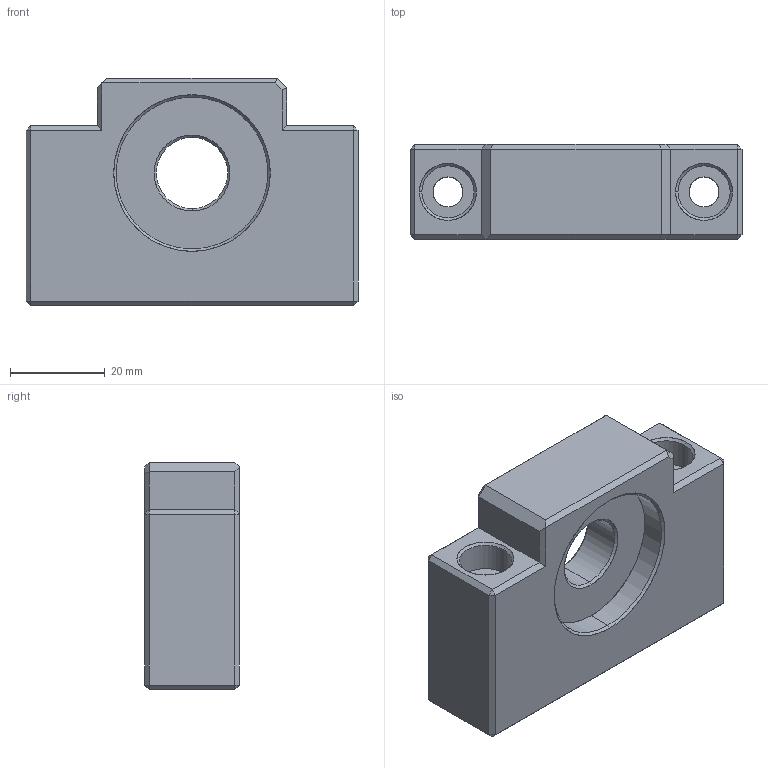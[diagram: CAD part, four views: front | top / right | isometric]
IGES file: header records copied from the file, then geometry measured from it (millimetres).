
Start section: SolidWorks IGES file using analytic representation for surfaces
Global section: file name: E:\同创达图纸\产品示意图\3D选型图\支撑座\BF系列\BF15.IGS; native system: SolidWorks 2012; preprocessor: SolidWorks 2012; author: gao; date: 130702.152249; units: millimetre
Bounding box: 70 x 20 x 48 mm (x, y, z)
Surface area: 13095 mm2 (no closed solid volume)
Topology: 0 solids, 0 shells, 77 faces, 872 edges, 872 vertices
Faces by surface type: bspline 47, revolution 30
